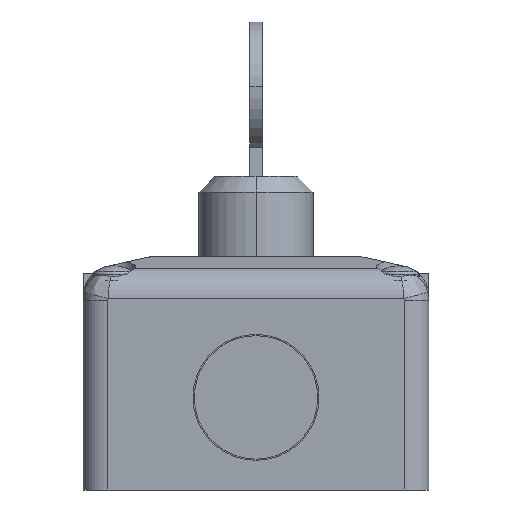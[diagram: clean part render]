
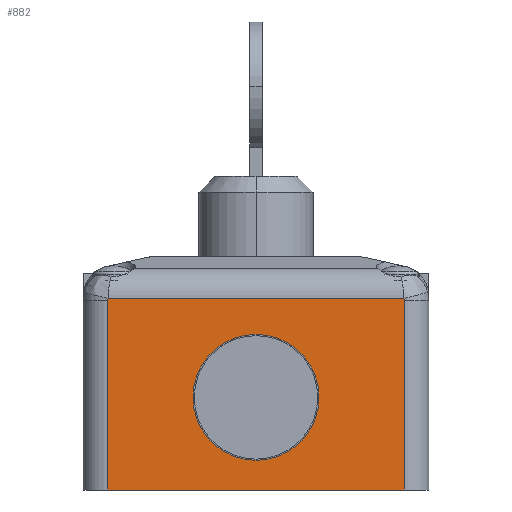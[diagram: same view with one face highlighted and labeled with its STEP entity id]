
A CAD part, front view. The second image highlights one B-rep face of the part: STEP entity #882.
In plain terms, the highlighted planar face has unit normal (0, -1, 0).
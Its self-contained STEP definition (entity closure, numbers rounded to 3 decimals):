
#136 = VERTEX_POINT ( 'NONE', #4286 ) ;
#138 = EDGE_CURVE ( 'NONE', #136, #139, #4285, .T. ) ;
#139 = VERTEX_POINT ( 'NONE', #4280 ) ;
#547 = VERTEX_POINT ( 'NONE', #5324 ) ;
#549 = EDGE_CURVE ( 'NONE', #557, #547, #5323, .T. ) ;
#557 = VERTEX_POINT ( 'NONE', #5251 ) ;
#837 = VERTEX_POINT ( 'NONE', #5645 ) ;
#838 = ORIENTED_EDGE ( 'NONE', *, *, #839, .T. ) ;
#839 = EDGE_CURVE ( 'NONE', #837, #877, #5883, .T. ) ;
#840 = ORIENTED_EDGE ( 'NONE', *, *, #876, .T. ) ;
#841 = ORIENTED_EDGE ( 'NONE', *, *, #549, .T. ) ;
#847 = ORIENTED_EDGE ( 'NONE', *, *, #2725, .F. ) ;
#848 = VERTEX_POINT ( 'NONE', #5869 ) ;
#876 = EDGE_CURVE ( 'NONE', #877, #557, #6011, .T. ) ;
#877 = VERTEX_POINT ( 'NONE', #6022 ) ;
#882 = ADVANCED_FACE ( 'NONE', ( #6053, #6052 ), #5991, .F. ) ;
#883 = EDGE_LOOP ( 'NONE', ( #884, #886 ) ) ;
#884 = ORIENTED_EDGE ( 'NONE', *, *, #885, .F. ) ;
#885 = EDGE_CURVE ( 'NONE', #139, #136, #6055, .T. ) ;
#886 = ORIENTED_EDGE ( 'NONE', *, *, #138, .F. ) ;
#2659 = EDGE_CURVE ( 'NONE', #2727, #837, #13970, .T. ) ;
#2701 = EDGE_CURVE ( 'NONE', #848, #2727, #14059, .T. ) ;
#2702 = EDGE_LOOP ( 'NONE', ( #847, #2726, #2738, #838, #840, #841 ) ) ;
#2725 = EDGE_CURVE ( 'NONE', #848, #547, #14073, .T. ) ;
#2726 = ORIENTED_EDGE ( 'NONE', *, *, #2701, .T. ) ;
#2727 = VERTEX_POINT ( 'NONE', #14121 ) ;
#2738 = ORIENTED_EDGE ( 'NONE', *, *, #2659, .T. ) ;
#4280 = CARTESIAN_POINT ( 'NONE',  ( 10.2, -92., -1.6 ) ) ;
#4281 = DIRECTION ( 'NONE',  ( 1., 0., 0. ) ) ;
#4282 = DIRECTION ( 'NONE',  ( 0., -1., 0. ) ) ;
#4283 = CARTESIAN_POINT ( 'NONE',  ( 0., -92., -1.6 ) ) ;
#4284 = AXIS2_PLACEMENT_3D ( 'NONE', #4283, #4282, #4281 ) ;
#4285 = CIRCLE ( 'NONE', #4284, 10.2 ) ;
#4286 = CARTESIAN_POINT ( 'NONE',  ( -10.2, -92., -1.6 ) ) ;
#5251 = CARTESIAN_POINT ( 'NONE',  ( -24., -92., -16.6 ) ) ;
#5262 = DIRECTION ( 'NONE',  ( 1., 0., 0. ) ) ;
#5321 = VECTOR ( 'NONE', #5262, 1000. ) ;
#5322 = CARTESIAN_POINT ( 'NONE',  ( 24., -92., -16.6 ) ) ;
#5323 = LINE ( 'NONE', #5322, #5321 ) ;
#5324 = CARTESIAN_POINT ( 'NONE',  ( 24., -92., -16.6 ) ) ;
#5645 = CARTESIAN_POINT ( 'NONE',  ( -23.965, -92., 14.393 ) ) ;
#5869 = CARTESIAN_POINT ( 'NONE',  ( 24., -92., 14.122 ) ) ;
#5879 = CARTESIAN_POINT ( 'NONE',  ( -24., -92., 14.122 ) ) ;
#5880 = CARTESIAN_POINT ( 'NONE',  ( -24., -92., 14.213 ) ) ;
#5881 = CARTESIAN_POINT ( 'NONE',  ( -23.988, -92., 14.304 ) ) ;
#5882 = CARTESIAN_POINT ( 'NONE',  ( -23.965, -92., 14.393 ) ) ;
#5883 =( BOUNDED_CURVE ( )  B_SPLINE_CURVE ( 3, ( #5882, #5881, #5880, #5879 ),
 .UNSPECIFIED., .F., .T. ) 
 B_SPLINE_CURVE_WITH_KNOTS ( ( 4, 4 ),
 ( 1.306, 1.571 ),
 .UNSPECIFIED. ) 
 CURVE ( )  GEOMETRIC_REPRESENTATION_ITEM ( )  RATIONAL_B_SPLINE_CURVE ( ( 1., 0.994, 0.994, 1. ) ) 
 REPRESENTATION_ITEM ( '' )  );
#5991 = PLANE ( 'NONE',  #6051 ) ;
#6011 = LINE ( 'NONE', #6021, #6020 ) ;
#6017 = DIRECTION ( 'NONE',  ( 0., 1., 0. ) ) ;
#6018 = CARTESIAN_POINT ( 'NONE',  ( 24., -92., 21.2 ) ) ;
#6019 = DIRECTION ( 'NONE',  ( 0., 0., -1. ) ) ;
#6020 = VECTOR ( 'NONE', #6019, 1000. ) ;
#6021 = CARTESIAN_POINT ( 'NONE',  ( -24., -92., 21.2 ) ) ;
#6022 = CARTESIAN_POINT ( 'NONE',  ( -24., -92., 14.122 ) ) ;
#6026 = DIRECTION ( 'NONE',  ( 1., 0., 0. ) ) ;
#6027 = DIRECTION ( 'NONE',  ( 0., -1., 0. ) ) ;
#6028 = CARTESIAN_POINT ( 'NONE',  ( 0., -92., -1.6 ) ) ;
#6029 = AXIS2_PLACEMENT_3D ( 'NONE', #6028, #6027, #6026 ) ;
#6051 = AXIS2_PLACEMENT_3D ( 'NONE', #6018, #6017, #6056 ) ;
#6052 = FACE_OUTER_BOUND ( 'NONE', #2702, .T. ) ;
#6053 = FACE_BOUND ( 'NONE', #883, .T. ) ;
#6055 = CIRCLE ( 'NONE', #6029, 10.2 ) ;
#6056 = DIRECTION ( 'NONE',  ( -1., 0., 0. ) ) ;
#13967 = DIRECTION ( 'NONE',  ( -1., 0., 0. ) ) ;
#13968 = VECTOR ( 'NONE', #13967, 1000. ) ;
#13969 = CARTESIAN_POINT ( 'NONE',  ( 24., -92., 14.393 ) ) ;
#13970 = LINE ( 'NONE', #13969, #13968 ) ;
#14045 = CARTESIAN_POINT ( 'NONE',  ( 23.965, -92., 14.393 ) ) ;
#14046 = CARTESIAN_POINT ( 'NONE',  ( 23.988, -92., 14.304 ) ) ;
#14047 = CARTESIAN_POINT ( 'NONE',  ( 24., -92., 14.213 ) ) ;
#14048 = CARTESIAN_POINT ( 'NONE',  ( 24., -92., 14.122 ) ) ;
#14059 =( BOUNDED_CURVE ( )  B_SPLINE_CURVE ( 3, ( #14048, #14047, #14046, #14045 ),
 .UNSPECIFIED., .F., .T. ) 
 B_SPLINE_CURVE_WITH_KNOTS ( ( 4, 4 ),
 ( 1.571, 1.836 ),
 .UNSPECIFIED. ) 
 CURVE ( )  GEOMETRIC_REPRESENTATION_ITEM ( )  RATIONAL_B_SPLINE_CURVE ( ( 1., 0.994, 0.994, 1. ) ) 
 REPRESENTATION_ITEM ( '' )  );
#14073 = LINE ( 'NONE', #14124, #14123 ) ;
#14121 = CARTESIAN_POINT ( 'NONE',  ( 23.965, -92., 14.393 ) ) ;
#14122 = DIRECTION ( 'NONE',  ( 0., 0., -1. ) ) ;
#14123 = VECTOR ( 'NONE', #14122, 1000. ) ;
#14124 = CARTESIAN_POINT ( 'NONE',  ( 24., -92., 21.2 ) ) ;
